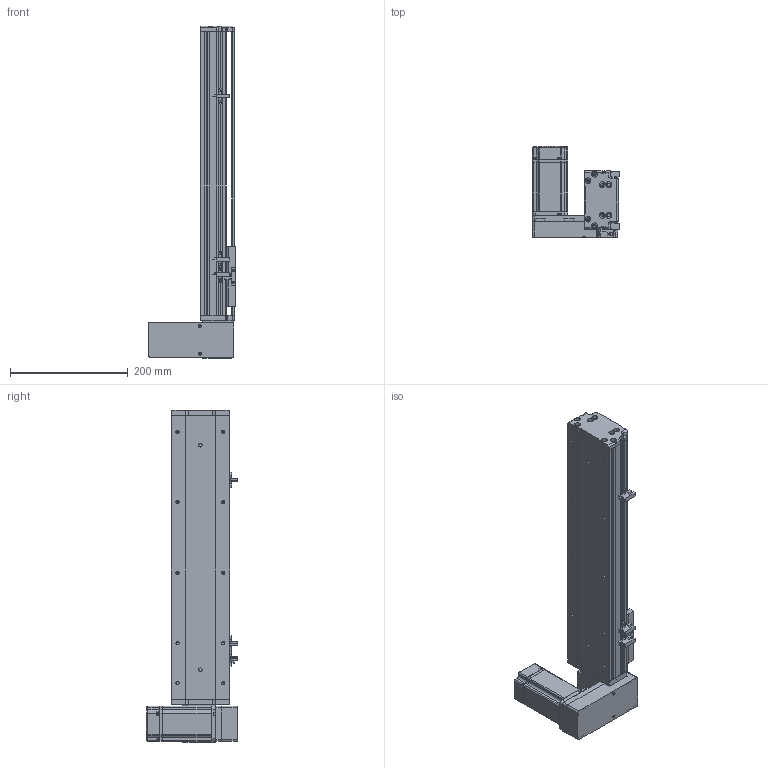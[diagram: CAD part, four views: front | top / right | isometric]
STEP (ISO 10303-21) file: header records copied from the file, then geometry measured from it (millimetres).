
FILE_DESCRIPTION (( 'STEP AP214' ), '1' );
FILE_NAME ('KSD100B-S300-MRD-CM.STEP', '2019-10-16T07:21:23', ( '微软用户' ), ( '微软中国' ), 'SwSTEP 2.0', 'SolidWorks 2014', '' );
FILE_SCHEMA (( 'AUTOMOTIVE_DESIGN' ));
Length unit declared in the file: millimetre
Products named in the file (12): 覜茼え100遵圉猾敕; 100宽防尘板300行程-同步带; 100宽马达安装板同步带右; 100宽同步带安装板半封闭; 100宽马达安装板同步带; 100遵傷啣肮祭湍; 100宽底板半封闭同步带300行程; KSD100B-S300-MRD-CM; MHMD042G1CA_2_03; 悵誘欶奻狟殏; 100宽马达安装板连板上下折丝杆同步带; U倰嫖萇EEㄜSX672
Assembly tree (13 placements, depth 2):
  KSD100B-S300-MRD-CM
    100宽底板半封闭同步带300行程
    100遵傷啣肮祭湍
    100宽马达安装板同步带
    100宽同步带安装板半封闭
    100宽马达安装板同步带右
    100宽防尘板300行程-同步带
    覜茼え100遵圉猾敕
    U倰嫖萇EEㄜSX672  x3
    100宽马达安装板连板上下折丝杆同步带
    悵誘欶奻狟殏
    MHMD042G1CA_2_03
Bounding box: 148 x 156.2 x 565 mm (x, y, z)
Volume: 1218302.8 mm3; surface area: 508768.8 mm2
Topology: 12 solids, 13 shells, 1563 faces, 4427 edges, 2880 vertices
Faces by surface type: cylinder 717, plane 708, cone 120, bspline 18
Entity records: 57488 total; most frequent: CARTESIAN_POINT 10128, DIRECTION 7834, ORIENTED_EDGE 7418, EDGE_CURVE 3781, AXIS2_PLACEMENT_3D 2810, VERTEX_POINT 2504, VECTOR 2214, LINE 2214
